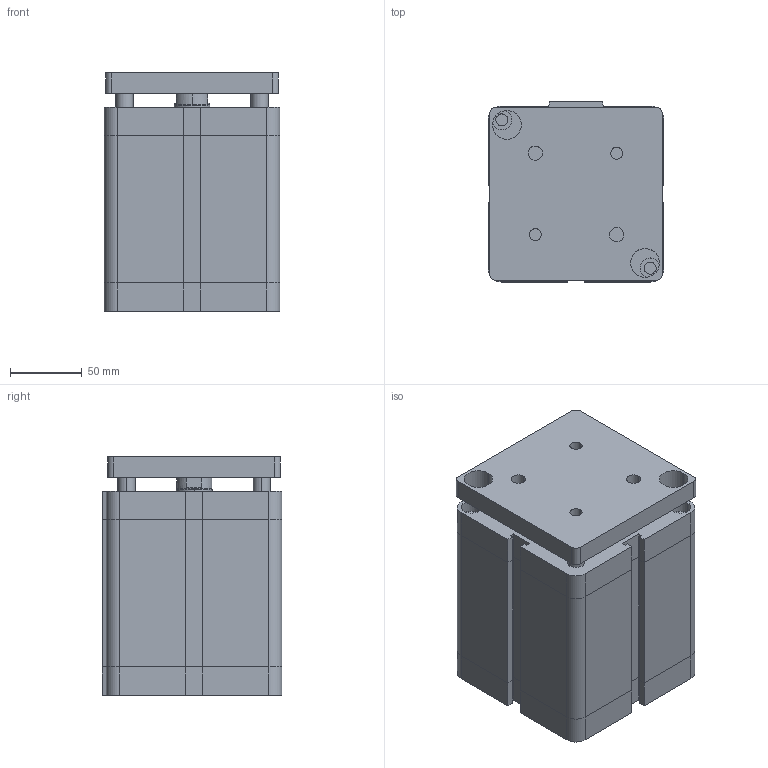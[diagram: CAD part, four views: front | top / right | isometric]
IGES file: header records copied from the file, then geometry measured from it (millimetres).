
Global section: file name: No Iges File Name specified; native system: Autodesk Inventor 2009; preprocessor: AutoDesk Inventor Iges Exporter R2009; author: maffial1; date: 20090420.201428; units: millimetre
Bounding box: 122 x 125 x 165.5 mm (x, y, z)
Volume: 2267704.8 mm3; surface area: 173948.3 mm2
Topology: 2 solids, 2 shells, 212 faces, 486 edges, 298 vertices
Faces by surface type: plane 111, bspline 67, cylinder 26, cone 8
